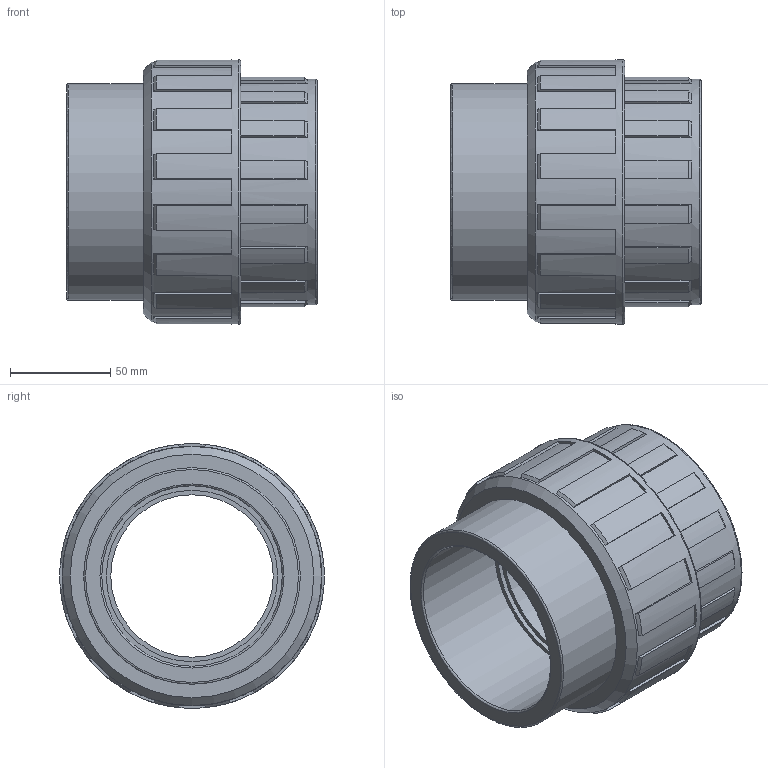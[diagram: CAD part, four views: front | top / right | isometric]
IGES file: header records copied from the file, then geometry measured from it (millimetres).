
Global section: file name: 050800090.ipt; native system: Autodesk Inventor 2015; preprocessor: unknown; author: Кирилл,,11,0; organization: 20171003.032032; date: 20171207.164914; units: millimetre
Bounding box: 125 x 132 x 132 mm (x, y, z)
Volume: 614918.9 mm3; surface area: 99444.2 mm2
Topology: 1 solids, 1 shells, 149 faces, 438 edges, 296 vertices
Faces by surface type: plane 87, cone 33, cylinder 20, revolution 9
Full cylindrical faces by diameter (mm): 108 x1, 112.5 x1, 129.36 x1, 132 x1
